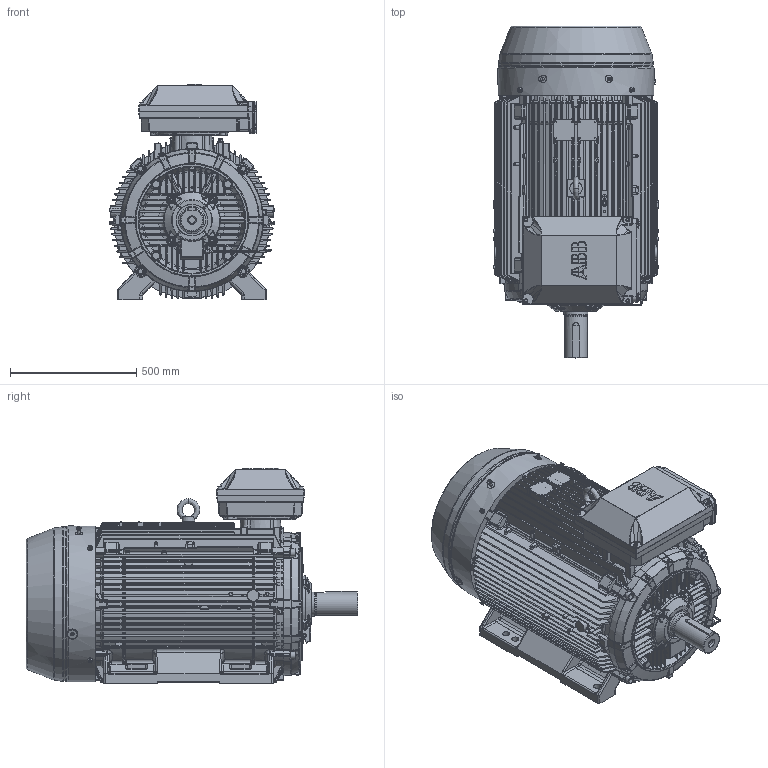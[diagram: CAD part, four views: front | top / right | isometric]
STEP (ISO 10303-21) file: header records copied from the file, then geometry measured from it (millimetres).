
FILE_DESCRIPTION(/* description */ (''),/* implementation_level */ '2;1');
FILE_NAME(/* name */ '3GZF500031-3673.stp',/* time_stamp */ '2019-07-01T15:57:13+03:00',/* author */ (''),/* organization */ (''),/* preprocessor_version */ 'ST-DEVELOPER v16.7',/* originating_system */ 'SIEMENS PLM Software NX 12.0',/* authorisation */ '');
FILE_SCHEMA (('AUTOMOTIVE_DESIGN { 1 0 10303 214 3 1 1 1 }'));
Products named in the file (1): 3GZF500031-2901_STEP_C_001_3-DIMENSION PRINT
Bounding box: 654 x 1312.5 x 852 mm (x, y, z)
Volume: 323675563.1 mm3; surface area: 7757990.5 mm2
Topology: 1 solids, 19 shells, 5526 faces, 14717 edges, 9144 vertices
Faces by surface type: bspline 1968, plane 1517, cylinder 1334, cone 597, sphere 61, torus 49
Full cylindrical faces by diameter (mm): 2.5 x8, 2.9 x4, 4 x10, 5 x1, 6 x3, 8 x3, 8.6 x5, 9 x1, 9.6 x2, 10 x10, 10.2 x4, 10.5 x1, 11 x2, 12 x5, 13 x2, 16 x20, 17 x5, 18.5 x2, 23 x1, 24 x3, 25 x3, 28 x6, 30 x8, 42 x2, 45 x1, 89.2 x1, 90 x1, 94.85 x1, 108.919 x1, 200 x1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
Entity records: 277654 total; most frequent: CARTESIAN_POINT 124832, ORIENTED_EDGE 28354, DIRECTION 18803, EDGE_CURVE 14177, VERTEX_POINT 9073, AXIS2_PLACEMENT_3D 7213, EDGE_LOOP 5969, ADVANCED_FACE 5523
